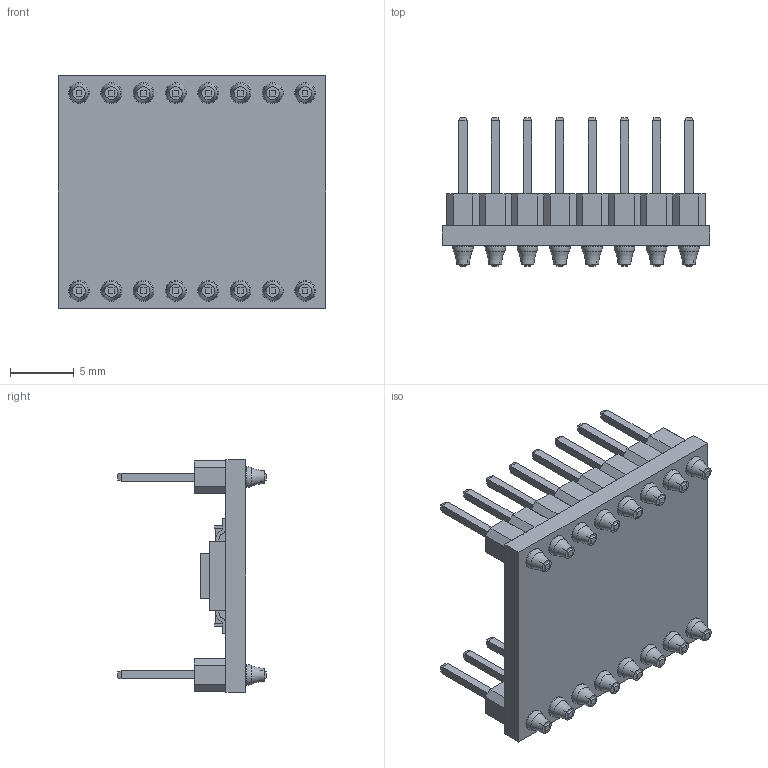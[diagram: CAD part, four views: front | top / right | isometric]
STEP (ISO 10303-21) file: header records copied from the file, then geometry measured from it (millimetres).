
FILE_DESCRIPTION (( 'STEP AP214' ), '1' );
FILE_NAME ('TB6612FNG_Upper Pins.STEP', '2025-02-10T06:10:40', ( '' ), ( '' ), 'SwSTEP 2.0', 'SolidWorks 2022', '' );
FILE_SCHEMA (( 'AUTOMOTIVE_DESIGN' ));
Length unit declared in the file: millimetre
Products named in the file (1): TB6612FNG_Upper Pins
Bounding box: 21 x 11.66 x 18.25 mm (x, y, z)
Volume: 1045.5 mm3; surface area: 2270.4 mm2
Topology: 33 solids, 49 shells, 926 faces, 2200 edges, 1408 vertices
Faces by surface type: plane 718, cylinder 112, torus 96
Full cylindrical faces by diameter (mm): 1.64 x16
Entity records: 35956 total; most frequent: CARTESIAN_POINT 4359, DIRECTION 4246, ORIENTED_EDGE 4112, EDGE_CURVE 2056, VECTOR 1720, LINE 1720, VERTEX_POINT 1376, AXIS2_PLACEMENT_3D 1263
